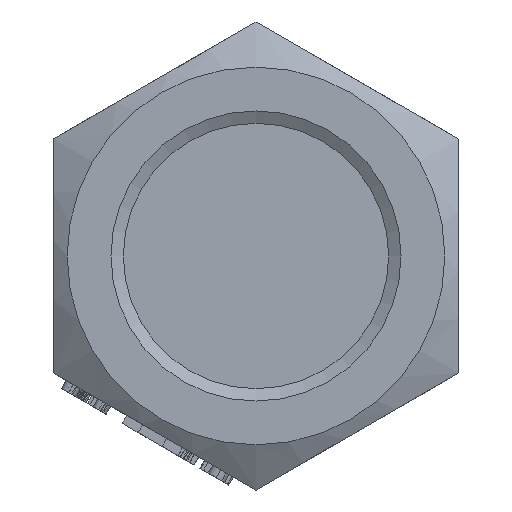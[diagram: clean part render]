
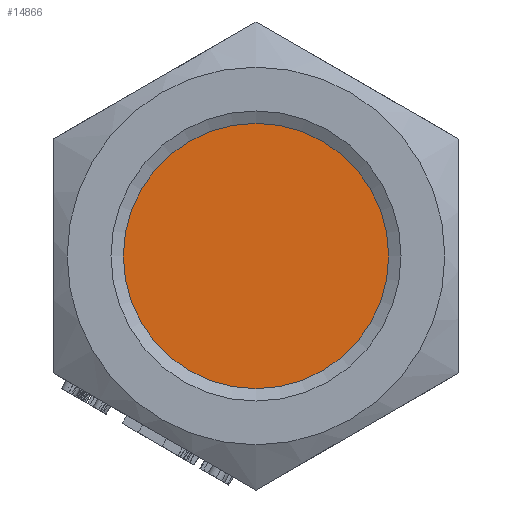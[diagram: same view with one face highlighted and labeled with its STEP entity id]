
A CAD part, front view. The second image highlights one B-rep face of the part: STEP entity #14866.
In plain terms, the highlighted planar face has unit normal (0, -1, 0).
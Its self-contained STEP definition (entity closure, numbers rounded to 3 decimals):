
#47=CIRCLE('',#15441,7.2);
#1152=FACE_OUTER_BOUND('',#2009,.T.);
#2009=EDGE_LOOP('',(#13459));
#7154=VERTEX_POINT('',#26183);
#9266=EDGE_CURVE('',#7154,#7154,#47,.T.);
#13459=ORIENTED_EDGE('',*,*,#9266,.F.);
#14090=PLANE('',#15442);
#14866=ADVANCED_FACE('',(#1152),#14090,.T.);
#15441=AXIS2_PLACEMENT_3D('',#26184,#18197,#18198);
#15442=AXIS2_PLACEMENT_3D('',#26185,#18199,#18200);
#18197=DIRECTION('center_axis',(0.,1.,0.));
#18198=DIRECTION('ref_axis',(-1.,0.,0.));
#18199=DIRECTION('center_axis',(0.,-1.,0.));
#18200=DIRECTION('ref_axis',(0.,0.,-1.));
#26183=CARTESIAN_POINT('',(-7.2,11.,0.));
#26184=CARTESIAN_POINT('Origin',(0.,11.,0.));
#26185=CARTESIAN_POINT('Origin',(-6.85,11.,0.));
